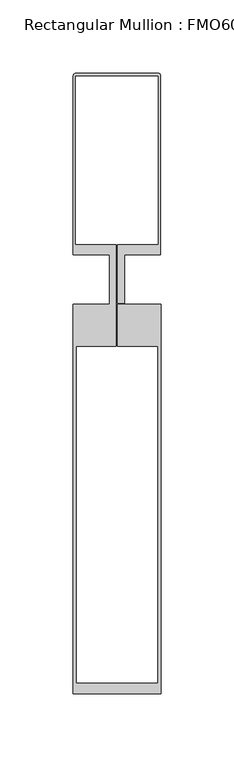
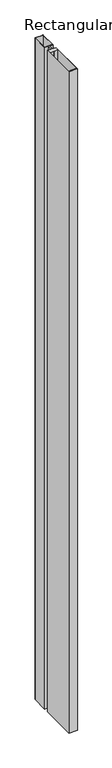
"""IFC4 building model written with IfcOpenShell, lengths in millimetres: member geometry, Rectangular Mullion : FMO60-270...FM60-120."""

from ifc_helpers import new_model, si_unit, frame, origin, place, context, project, spatial, circle_curve, source, transform, mapped, element, save
from ifc_brep_helpers import plane_surface, cylinder_surface, advanced_brep


def rectangular_mullion_fmo60_270_fm60_120_8979f5e6(model_context):
    return source(origin(), model_context, "Body", "AdvancedBrep", [
        advanced_brep(
        [(-28.0, 141.0574739, 0.0), (-30.0, 139.0574739, 0.0), (-30.0979663, 17.0, 0.0), (-5.0, 17.0, 0.0), (-5.0, -17.0, 0.0), (-30.0, -17.0, 0.0), (-30.0, -283.009342, 0.0), (30.0, -283.009342, 0.0), (30.0, -17.0, 0.0), (0.5, -17.0, 0.0), (0.5, -45.5034642, 0.0), (28.0, -45.5034642, 0.0), (28.0, -276.0034417, 0.0), (-28.0, -276.0034417, 0.0), (-28.0, -45.5034642, 0.0), (-0.5, -45.5034642, 0.0), (-0.5, 23.8476589, 0.0), (-28.5979663, 23.8476589, 0.0), (-28.5979663, 139.251741, 0.0), (28.4020337, 139.251741, 0.0), (28.4020337, 23.8476589, 0.0), (0.5, 23.8476589, 0.0), (0.5, -16.2, 0.0), (5.0, -16.2, 0.0), (5.0, 17.0, 0.0), (29.9020337, 17.0, 0.0), (29.9020337, 139.0574739, 0.0), (28.0, 141.0574739, 0.0), (-28.0, 141.0574739, -5000.0), (28.0, 141.0574739, -5000.0), (29.9020337, 139.0574739, -5000.0), (29.9020337, 17.0, -5000.0), (5.0, 17.0, -5000.0), (5.0, -16.2, -5000.0), (0.5, -16.2, -5000.0), (0.5, 23.8476589, -5000.0), (28.4020337, 23.8476589, -5000.0), (28.4020337, 139.251741, -5000.0), (-28.5979663, 139.251741, -5000.0), (-28.5979663, 23.8476589, -5000.0), (-0.5, 23.8476589, -5000.0), (-0.5, -45.5034642, -5000.0), (-28.0, -45.5034642, -5000.0), (-28.0, -276.0034417, -5000.0), (28.0, -276.0034417, -5000.0), (28.0, -45.5034642, -5000.0), (0.5, -45.5034642, -5000.0), (0.5, -17.0, -5000.0), (30.0, -17.0, -5000.0), (30.0, -283.009342, -5000.0), (-30.0, -283.009342, -5000.0), (-30.0, -17.0, -5000.0), (-5.0, -17.0, -5000.0), (-5.0, 17.0, -5000.0), (-30.0979663, 17.0, -5000.0), (-30.0979663, 139.0570187, -5000.0)],
        [
            (0, 1, circle_curve(frame((-28.0, 139.0574739, 0.0), z_axis=(0.0, 0.0, 1.0), x_axis=(-1.0, 0.0, 0.0)), 2.0)),
            (1, 2),
            (2, 3),
            (3, 4),
            (4, 5),
            (5, 6),
            (6, 7),
            (7, 8),
            (8, 9),
            (9, 10),
            (10, 11),
            (11, 12),
            (12, 13),
            (13, 14),
            (14, 15),
            (15, 16),
            (16, 17),
            (17, 18),
            (18, 19),
            (19, 20),
            (20, 21),
            (21, 22),
            (22, 23),
            (23, 24),
            (24, 25),
            (25, 26),
            (26, 27, circle_curve(frame((28.0653138, 139.2151554, 0.0), z_axis=(0.0, 0.0, 1.0), x_axis=(-0.03542969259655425, 0.9993721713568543, 0.0)), 1.843476)),
            (27, 0),
            (28, 29),
            (29, 30, circle_curve(frame((28.0653138, 139.2151554, -5000.0), z_axis=(0.0, 0.0, -1.0), x_axis=(-0.03542969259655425, 0.9993721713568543, 0.0)), 1.843476)),
            (30, 31),
            (31, 32),
            (32, 33),
            (33, 34),
            (34, 35),
            (35, 36),
            (36, 37),
            (37, 38),
            (38, 39),
            (39, 40),
            (40, 41),
            (41, 42),
            (42, 43),
            (43, 44),
            (44, 45),
            (45, 46),
            (46, 47),
            (47, 48),
            (48, 49),
            (49, 50),
            (50, 51),
            (51, 52),
            (52, 53),
            (53, 54),
            (54, 55),
            (55, 28, circle_curve(frame((-28.0, 139.0574739, -5000.0), z_axis=(0.0, 0.0, -1.0), x_axis=(-1.0, 0.0, 0.0)), 2.0)),
            (0, 28),
            (55, 1),
            (54, 2),
            (53, 3),
            (52, 4),
            (51, 5),
            (50, 6),
            (49, 7),
            (48, 8),
            (47, 9),
            (46, 10),
            (45, 11),
            (44, 12),
            (43, 13),
            (42, 14),
            (41, 15),
            (40, 16),
            (39, 17),
            (38, 18),
            (37, 19),
            (36, 20),
            (35, 21),
            (34, 22),
            (33, 23),
            (32, 24),
            (31, 25),
            (30, 26),
            (29, 27),
        ],
        [
            plane_surface(frame((0.0, -284.5949537, 0.0), z_axis=(0.0, 0.0, 1.0), x_axis=(-1.0, 0.0, 0.0))),
            plane_surface(frame((0.0, -284.5949537, -5000.0), z_axis=(0.0, 0.0, -1.0), x_axis=(-1.0, 0.0, 0.0))),
            cylinder_surface(frame((-28.0, 139.0574739, 0.0), z_axis=(0.0, 0.0, 1.0), x_axis=(-1.0, 0.0, 0.0)), 2.0),
            plane_surface(frame((-30.0979663, 139.0570187, 0.0), z_axis=(-1.0, 0.0, 0.0), x_axis=(0.0, 0.0, -1.0))),
            plane_surface(frame((-30.0979663, 17.0, 0.0), z_axis=(0.0, -1.0, 0.0), x_axis=(0.0, 0.0, -1.0))),
            plane_surface(frame((-5.0, 17.0, 0.0), z_axis=(-1.0, 0.0, 0.0), x_axis=(0.0, 0.0, -1.0))),
            plane_surface(frame((-5.0, -17.0, 0.0), z_axis=(0.0, 1.0, 0.0), x_axis=(0.0, 0.0, -1.0))),
            plane_surface(frame((-30.0, -17.0, 0.0), z_axis=(-1.0, 0.0, 0.0), x_axis=(0.0, 0.0, -1.0))),
            plane_surface(frame((-30.0, -283.009342, 0.0), z_axis=(0.0, -1.0, 0.0), x_axis=(0.0, 0.0, -1.0))),
            plane_surface(frame((30.0, -283.009342, 0.0), z_axis=(1.0, 0.0, 0.0), x_axis=(0.0, 0.0, -1.0))),
            plane_surface(frame((30.0, -17.0, 0.0), z_axis=(0.0, 1.0, 0.0), x_axis=(0.0, 0.0, -1.0))),
            plane_surface(frame((0.5, -17.0, 0.0), z_axis=(-1.0, 0.0, 0.0), x_axis=(0.0, 0.0, -1.0))),
            plane_surface(frame((0.5, -45.5034642, 0.0), z_axis=(0.0, -1.0, 0.0), x_axis=(0.0, 0.0, -1.0))),
            plane_surface(frame((28.0, -45.5034642, 0.0), z_axis=(-1.0, 0.0, 0.0), x_axis=(0.0, 0.0, -1.0))),
            plane_surface(frame((28.0, -276.0034417, 0.0), z_axis=(0.0, 1.0, 0.0), x_axis=(0.0, 0.0, -1.0))),
            plane_surface(frame((-28.0, -276.0034417, 0.0), z_axis=(1.0, 0.0, 0.0), x_axis=(0.0, 0.0, -1.0))),
            plane_surface(frame((-28.0, -45.5034642, 0.0), z_axis=(0.0, -1.0, 0.0), x_axis=(0.0, 0.0, -1.0))),
            plane_surface(frame((-0.5, -45.5034642, 0.0), z_axis=(1.0, 0.0, 0.0), x_axis=(0.0, 0.0, -1.0))),
            plane_surface(frame((-0.5, 23.8476589, 0.0), z_axis=(0.0, 1.0, 0.0), x_axis=(0.0, 0.0, -1.0))),
            plane_surface(frame((-28.5979663, 23.8476589, 0.0), z_axis=(1.0, 0.0, 0.0), x_axis=(0.0, 0.0, -1.0))),
            plane_surface(frame((-28.5979663, 139.251741, 0.0), z_axis=(0.0, -1.0, 0.0), x_axis=(0.0, 0.0, -1.0))),
            plane_surface(frame((28.4020337, 139.251741, 0.0), z_axis=(-1.0, 0.0, 0.0), x_axis=(0.0, 0.0, -1.0))),
            plane_surface(frame((28.4020337, 23.8476589, 0.0), z_axis=(0.0, 1.0, 0.0), x_axis=(0.0, 0.0, -1.0))),
            plane_surface(frame((0.5, 23.8476589, 0.0), z_axis=(-1.0, 0.0, 0.0), x_axis=(0.0, 0.0, -1.0))),
            plane_surface(frame((0.5, -16.2, 0.0), z_axis=(0.0, -1.0, 0.0), x_axis=(0.0, 0.0, -1.0))),
            plane_surface(frame((5.0, -16.2, 0.0), z_axis=(1.0, 0.0, 0.0), x_axis=(0.0, 0.0, -1.0))),
            plane_surface(frame((5.0, 17.0, 0.0), z_axis=(0.0, -1.0, 0.0), x_axis=(0.0, 0.0, -1.0))),
            plane_surface(frame((29.9020337, 17.0, 0.0), z_axis=(1.0, 0.0, 0.0), x_axis=(0.0, 0.0, -1.0))),
            cylinder_surface(frame((28.0653138, 139.2151554, 0.0), z_axis=(0.0, 0.0, 1.0), x_axis=(-0.03542969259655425, 0.9993721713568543, 0.0)), 1.843476),
            plane_surface(frame((28.0, 141.0574739, 0.0), z_axis=(0.0, 1.0, 0.0), x_axis=(0.0, 0.0, -1.0))),
        ],
        [
            (0, [[1, 2, 3, 4, 5, 6, 7, 8, 9, 10, 11, 12, 13, 14, 15, 16, 17, 18, 19, 20, 21, 22, 23, 24, 25, 26, 27, 28]]),
            (1, [[29, 30, 31, 32, 33, 34, 35, 36, 37, 38, 39, 40, 41, 42, 43, 44, 45, 46, 47, 48, 49, 50, 51, 52, 53, 54, 55, 56]]),
            (2, [[-1, 57, -56, 58]]),
            (3, [[-2, -58, -55, 59]]),
            (4, [[-3, -59, -54, 60]]),
            (5, [[-4, -60, -53, 61]]),
            (6, [[-5, -61, -52, 62]]),
            (7, [[-6, -62, -51, 63]]),
            (8, [[-7, -63, -50, 64]]),
            (9, [[-8, -64, -49, 65]]),
            (10, [[-9, -65, -48, 66]]),
            (11, [[-10, -66, -47, 67]]),
            (12, [[-11, -67, -46, 68]]),
            (13, [[-12, -68, -45, 69]]),
            (14, [[-13, -69, -44, 70]]),
            (15, [[-14, -70, -43, 71]]),
            (16, [[-15, -71, -42, 72]]),
            (17, [[-16, -72, -41, 73]]),
            (18, [[-17, -73, -40, 74]]),
            (19, [[-18, -74, -39, 75]]),
            (20, [[-19, -75, -38, 76]]),
            (21, [[-20, -76, -37, 77]]),
            (22, [[-21, -77, -36, 78]]),
            (23, [[-22, -78, -35, 79]]),
            (24, [[-23, -79, -34, 80]]),
            (25, [[-24, -80, -33, 81]]),
            (26, [[-25, -81, -32, 82]]),
            (27, [[-26, -82, -31, 83]]),
            (28, [[-27, -83, -30, 84]]),
            (29, [[-28, -84, -29, -57]]),
        ],
    ),
    ])


if __name__ == "__main__":
    model = new_model("IFC4")
    model_context = context("Model", 3, world=origin())
    ifc_project = project(units=[si_unit("LENGTHUNIT", "METRE", prefix="MILLI")], contexts=[model_context])
    site = spatial("IfcSite", under=ifc_project)
    building = spatial("IfcBuilding", under=site)
    placement = place(None, origin())
    rectangular_mullion_fmo60_270_fm60_120_shape = rectangular_mullion_fmo60_270_fm60_120_8979f5e6(model_context)
    element("IfcMember", 1, ObjectType="Rectangular Mullion : FMO60-270...FM60-120", at=placement, inside=building, context=model_context, shape_type="MappedRepresentation", body=[
        mapped(rectangular_mullion_fmo60_270_fm60_120_shape, transform((0.0, 0.0, 0.0), x_axis=(1.0, 0.0, 0.0), y_axis=(0.0, 1.0, 0.0), z_axis=(0.0, 0.0, 1.0))),
    ])
    save(model, "model.ifc")
